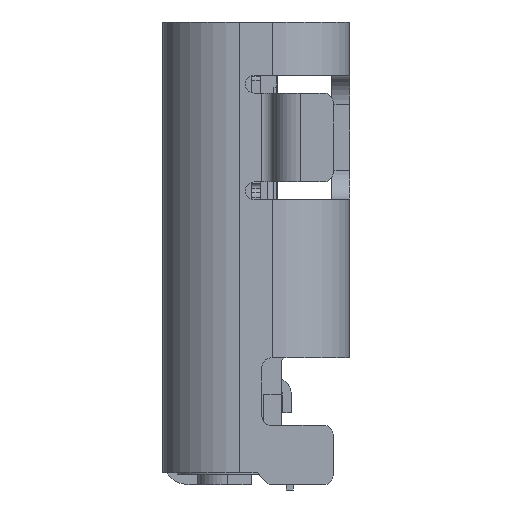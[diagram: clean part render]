
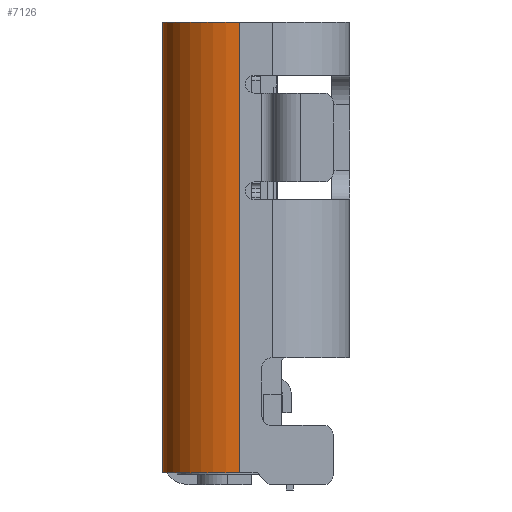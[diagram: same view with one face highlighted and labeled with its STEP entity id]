
A CAD part, left-side view. The second image highlights one B-rep face of the part: STEP entity #7126.
In plain terms, the highlighted cylindrical face has radius 1.3 mm (diameter 2.6 mm), a partial arc.
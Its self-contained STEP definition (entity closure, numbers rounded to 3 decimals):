
#7126=ADVANCED_FACE('Face appearance 5',(#15135),#15136,.T.);
#15135=FACE_OUTER_BOUND('',#18850,.T.);
#15136=CYLINDRICAL_SURFACE('',#18851,1.3);
#18850=EDGE_LOOP('',(#24775,#24776,#24777,#24778));
#18851=AXIS2_PLACEMENT_3D('',#24779,#24780,#24781);
#24775=ORIENTED_EDGE('',*,*,#33533,.F.);
#24776=ORIENTED_EDGE('',*,*,#33534,.F.);
#24777=ORIENTED_EDGE('',*,*,#33355,.T.);
#24778=ORIENTED_EDGE('',*,*,#33495,.T.);
#24779=CARTESIAN_POINT('',(-3.17,0.28,-0.98));
#24780=DIRECTION('',(-0.0,0.0,1.0));
#24781=DIRECTION('',(1.0,0.0,0.0));
#33355=EDGE_CURVE('',#37353,#37351,#37354,.T.);
#33495=EDGE_CURVE('',#37351,#37593,#37595,.T.);
#33533=EDGE_CURVE('',#37669,#37593,#37670,.T.);
#33534=EDGE_CURVE('',#37353,#37669,#37671,.T.);
#37351=VERTEX_POINT('',#38637);
#37353=VERTEX_POINT('',#38640);
#37354=CIRCLE('',#38641,1.3);
#37593=VERTEX_POINT('',#38982);
#37595=LINE('',#38985,#38986);
#37669=VERTEX_POINT('',#39077);
#37670=CIRCLE('',#39078,1.3);
#37671=LINE('',#39079,#39080);
#38637=CARTESIAN_POINT('',(-3.17,1.58,4.02));
#38640=CARTESIAN_POINT('',(-4.47,0.28,4.02));
#38641=AXIS2_PLACEMENT_3D('',#40149,#40150,#40151);
#38982=CARTESIAN_POINT('',(-3.17,1.58,-3.59));
#38985=CARTESIAN_POINT('',(-3.17,1.58,-0.98));
#38986=VECTOR('',#40363,1000.0);
#39077=CARTESIAN_POINT('',(-4.47,0.28,-3.59));
#39078=AXIS2_PLACEMENT_3D('',#40441,#40442,#40443);
#39079=CARTESIAN_POINT('',(-4.47,0.28,-0.98));
#39080=VECTOR('',#40444,1000.0);
#40149=CARTESIAN_POINT('',(-3.17,0.28,4.02));
#40150=DIRECTION('',(0.0,0.0,-1.0));
#40151=DIRECTION('',(-1.0,0.0,0.0));
#40363=DIRECTION('',(0.0,0.0,-1.0));
#40441=CARTESIAN_POINT('',(-3.17,0.28,-3.59));
#40442=DIRECTION('',(0.0,0.0,-1.0));
#40443=DIRECTION('',(-1.0,0.0,0.0));
#40444=DIRECTION('',(0.0,0.0,-1.0));
